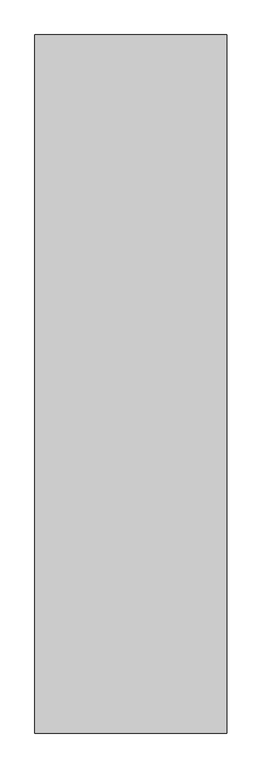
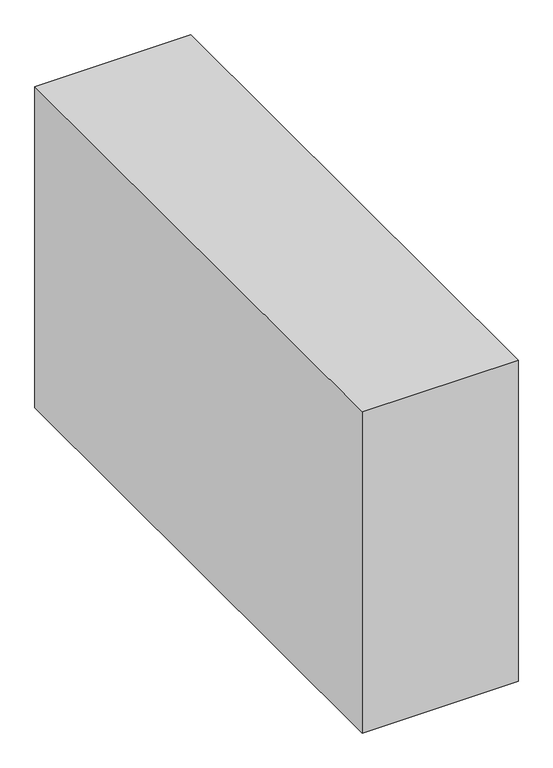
"""IFC4 building model written with IfcOpenShell, lengths in millimetres: furniture geometry, BIMHealth-Parametric_Infill-LOD2A-v1 : BIMHealth-Parametric_Infill-LOD2A-v1."""

from ifc_helpers import new_model, si_unit, origin, origin_with_axes, place, context, project, spatial, polyline, outline, extrude, source, transform, mapped, element, save


def furniture_7efa7f5c(model_context):
    return source(origin(), model_context, "Body", "SweptSolid", [
        extrude(outline(polyline([(275.1000801, 1000.8107532), (275.1000801, -1000.8107532), (-275.1000801, -1000.8107532), (-275.1000801, 1000.8107532), (275.1000801, 1000.8107532)])), origin_with_axes(), (0.0, 0.0, 1.0), 1200.0),
    ])


if __name__ == "__main__":
    model = new_model("IFC4")
    model_context = context("Model", 3, world=origin())
    ifc_project = project(units=[si_unit("LENGTHUNIT", "METRE", prefix="MILLI")], contexts=[model_context])
    site = spatial("IfcSite", under=ifc_project)
    building = spatial("IfcBuilding", under=site)
    placement = place(None, origin())
    furniture_shape = furniture_7efa7f5c(model_context)
    element("IfcFurniture", 1, ObjectType="BIMHealth-Parametric_Infill-LOD2A-v1 : BIMHealth-Parametric_Infill-LOD2A-v1", at=placement, inside=building, context=model_context, shape_type="MappedRepresentation", body=[
        mapped(furniture_shape, transform((0.0, 0.0, 0.0), x_axis=(1.0, 0.0, 0.0), y_axis=(0.0, 1.0, 0.0), z_axis=(0.0, 0.0, 1.0))),
    ])
    save(model, "model.ifc")
